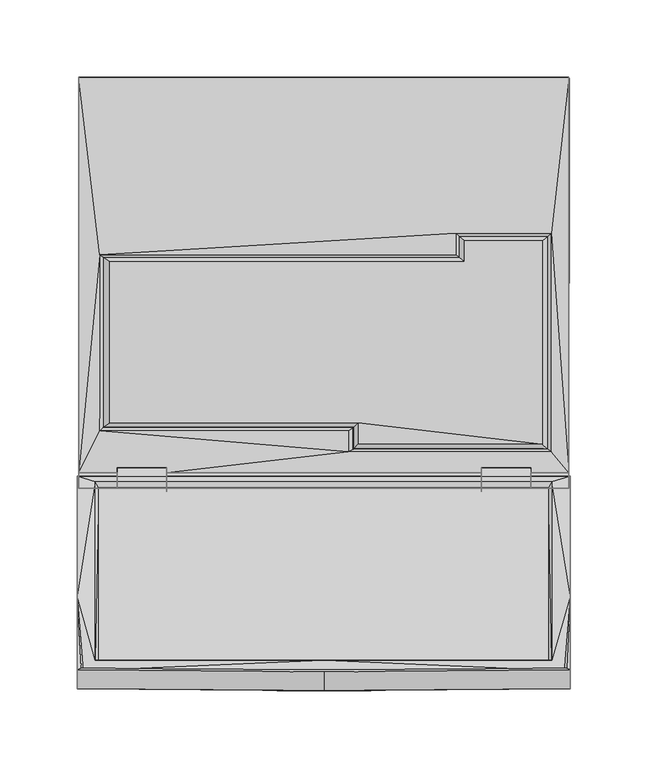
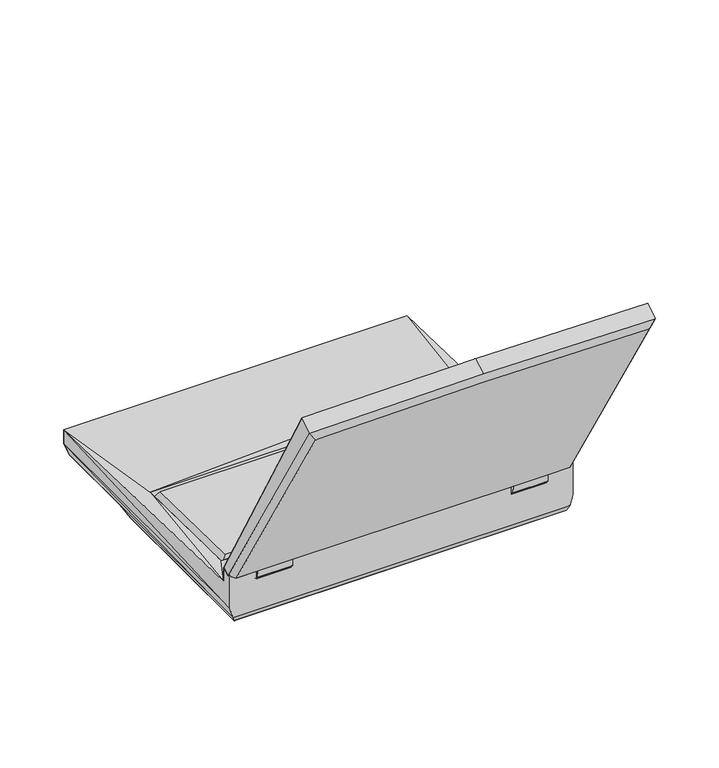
"""IFC4 building model written with IfcOpenShell, lengths in millimetres: proxy geometry, RPC Notebook Computer : RPC Notebook Computer."""

from ifc_helpers import new_model, si_unit, origin, place, context, project, spatial, triangles, source, transform, mapped, element, save


def entourage_8dadc95b(model_context):
    return source(origin(), model_context, "Body", "Tessellation", [
        triangles([(-158.4296465, 167.58125, 28.2218852), (-101.7496669, -97.7313892, 35.1332116), (-101.7496669, -97.7313892, 48.4910445), (-101.7496669, -92.7961799, 50.2665039), (-101.7496669, -87.9168539, 48.183705), (-101.7496669, -87.9168539, 35.1332116), (-158.4296465, -87.9168539, 35.1332116), (-133.8221823, -97.7288549, 35.1332116), (-133.8221823, -97.7313892, 48.4910445), (-133.8221823, -92.7961799, 50.2665039), (-133.8221823, -87.9168539, 48.183705), (-133.8221823, -87.9168539, 35.1332116), (158.4321899, 167.58125, 28.2218852), (101.7496669, -97.7313892, 35.1332116), (101.7496669, -97.7313892, 48.4910445), (101.7496669, -92.7961799, 50.2665039), (101.7496669, -87.9168539, 48.183705), (101.7496669, -87.9168539, 35.1332116), (85.2320795, 66.8399699, 31.8083578), (-144.8813183, 53.1646373, 31.9658382), (85.2320795, 53.1646373, 31.9658382), (-144.8813183, -60.6703247, 34.190875), (146.9209376, -74.3380361, 34.2924744), (146.9209376, 66.8399699, 31.8083578), (158.4321899, -87.9168539, 35.1332116), (133.8247257, -97.7313892, 35.1332116), (133.8247257, -97.7313892, 48.4910445), (133.8247257, -92.7961799, 50.2665039), (133.8247257, -87.9168539, 48.183705), (133.8247257, -87.9168539, 35.1332116), (-142.7070869, -58.4935454, 29.3902823), (15.8851291, -74.3380361, 34.2924744), (19.0347234, -72.5752803, 29.491884), (15.8851291, -60.6703247, 34.190875), (19.0347234, -58.4935454, 29.3902823), (-155.2851437, 164.0506697, 4.7853507), (-155.2851437, 83.3296157, 4.8691705), (-153.4715916, 69.0040457, 0.0), (-153.4715916, -95.8771965, 0.0), (155.2876871, 164.0506697, 4.7853507), (155.2851437, 83.3296157, 4.8691705), (153.4715916, 69.0040457, 0.0), (153.4715916, -95.8771965, 0.0), (-155.2851437, -97.7313892, 4.8691705), (-158.4296465, -97.7313892, 14.9046918), (-158.4296465, -97.7313892, 48.4910445), (155.2851437, -97.7313892, 4.8691705), (158.4321899, -97.7313892, 14.9046918), (158.4321899, -97.7313892, 48.4910445), (-158.4296465, -92.7961799, 50.2665039), (-158.4296465, -87.9168539, 48.183705), (158.4321899, -92.7961799, 50.2665039), (158.4321899, -87.9168539, 48.183705), (-158.6201509, 166.809095, 14.9046918), (158.6201509, 166.809095, 14.9046918), (87.4063109, 64.9654568, 27.0992089), (-142.7070869, 51.2901197, 27.2541481), (87.4063109, 51.2901197, 27.2541481), (144.7466972, -72.5752803, 29.491884), (144.7466972, 64.9654568, 27.0992089), (141.2262725, 62.1181197, 32.971677), (90.9267446, 62.1181197, 32.971677), (-138.3738576, 48.4427871, 33.1266163), (90.9267446, 48.4427871, 33.1266163), (-138.3738576, -55.455713, 35.1128913), (141.2262725, -69.5374479, 35.2170319), (21.8820582, -55.455713, 35.1128913), (21.8820582, -69.5374479, 35.2170319), (0.0, -97.4128585, 55.9745857), (0.0, -210.9896832, 252.9150856), (-145.6915795, -97.4079442, 55.9759029), (-145.6915795, -210.9896832, 252.9150856), (145.1099199, -97.4079442, 55.9759029), (145.1099199, -210.9896832, 252.9150856), (0.0, -93.6356817, 56.4318344), (0.0, -208.9149552, 255.5746798), (-147.9064516, -93.6314306, 56.4355996), (-147.9064516, -208.9149552, 255.5746798), (147.324792, -93.6314306, 56.4355996), (147.324792, -208.9149552, 255.5746798), (0.0, -216.3935685, 274.7706011), (0.0, -228.5968389, 267.3880576), (-159.4431202, -215.2201299, 272.1872014), (-159.4431202, -227.4258529, 264.8040038), (159.4431202, -215.2201299, 272.1872014), (159.4431202, -227.4258529, 264.8040038), (0.0, -228.4382185, 258.9843009), (0.0, -100.2161304, 44.3947738), (-101.7496669, -95.9080176, 34.4601195), (-154.0176883, -227.2647799, 256.4009012), (-101.7496669, -100.2161304, 44.3947738), (-133.8221823, -95.8970626, 34.4683153), (-133.7332797, -100.2161304, 44.3947738), (-154.0176883, -100.2161304, 44.3947738), (-133.8221823, -99.9570619, 37.7850142), (-101.7496669, -99.9570619, 37.7850142), (-159.4431202, -96.6325737, 46.5461914), (101.7496669, -95.9080176, 34.4601195), (154.0176883, -227.2647799, 256.4009012), (101.7496669, -100.2161304, 44.3947738), (133.8221823, -95.8970626, 34.4683153), (133.7332797, -100.2161304, 44.3947738), (154.0176883, -100.2161304, 44.3947738), (133.8221823, -99.9570619, 37.7850142), (101.7496669, -99.9570619, 37.7850142), (159.4431202, -96.6325737, 46.5461914), (0.0, -90.14497, 50.4408074), (-101.7496669, -84.4468077, 41.3440562), (-101.7496669, -90.1498753, 50.4394948), (-133.8221823, -84.4468077, 41.3440562), (101.7496669, -84.4468077, 41.3440562), (101.7496669, -90.1498753, 50.4394948), (133.8221823, -84.4468077, 41.3440562), (-133.7332797, -90.1498753, 50.4394948), (-159.4431202, -90.1431715, 50.4439186), (133.7332797, -90.1498753, 50.4394948), (159.4431202, -90.1431715, 50.4439186), (0.0, -215.2954524, 272.7823504), (-156.9437634, -214.1244664, 270.1982966), (-159.4431202, -167.4021366, 187.4104175), (0.0, -216.9436621, 269.6006769), (-155.5010462, -215.7733483, 267.0190757), (156.9437634, -214.1244664, 270.1982966), (159.4431202, -167.4021366, 187.4104175), (155.5010462, -215.7733483, 267.0190757)], [[1, 19, 13], [6, 2, 3], [6, 3, 4], [6, 4, 5], [6, 12, 8], [6, 8, 2], [12, 11, 10], [12, 10, 9], [12, 9, 8], [20, 21, 19], [1, 20, 19], [6, 22, 12], [20, 1, 7], [12, 22, 7], [6, 23, 32], [6, 18, 23], [13, 19, 24], [15, 14, 18], [16, 15, 18], [17, 16, 18], [26, 30, 18], [14, 26, 18], [28, 29, 30], [27, 28, 30], [26, 27, 30], [25, 24, 23], [30, 23, 18], [25, 13, 24], [25, 23, 30], [6, 32, 22], [34, 22, 32], [33, 31, 35], [41, 37, 36], [41, 36, 40], [41, 42, 38], [41, 38, 37], [43, 39, 38], [43, 38, 42], [8, 44, 2], [44, 8, 45], [46, 45, 9], [8, 9, 45], [47, 44, 39], [47, 39, 43], [14, 2, 47], [47, 2, 44], [15, 3, 14], [14, 3, 2], [14, 47, 26], [48, 26, 47], [27, 48, 49], [48, 27, 26], [51, 50, 11], [10, 11, 50], [17, 5, 16], [16, 5, 4], [29, 52, 53], [52, 29, 28], [50, 46, 10], [9, 10, 46], [16, 4, 15], [15, 4, 3], [28, 49, 52], [49, 28, 27], [1, 13, 55], [1, 55, 54], [54, 55, 40], [54, 40, 36], [40, 55, 41], [52, 48, 25], [48, 52, 49], [25, 53, 52], [43, 41, 47], [48, 13, 25], [47, 55, 48], [41, 43, 42], [13, 48, 55], [55, 47, 41], [7, 51, 12], [11, 12, 51], [18, 6, 17], [17, 6, 5], [30, 53, 25], [53, 30, 29], [37, 54, 36], [7, 45, 50], [46, 50, 45], [50, 51, 7], [44, 37, 39], [7, 1, 45], [45, 54, 44], [38, 39, 37], [54, 45, 1], [37, 44, 54], [31, 57, 22], [32, 23, 33], [59, 33, 23], [21, 20, 58], [57, 58, 20], [19, 21, 56], [58, 56, 21], [24, 19, 60], [56, 60, 19], [23, 24, 59], [60, 59, 24], [22, 34, 31], [35, 31, 34], [32, 33, 34], [35, 34, 33], [35, 59, 33], [22, 20, 7], [20, 22, 57], [65, 67, 63], [63, 67, 64], [62, 64, 61], [64, 66, 61], [57, 31, 63], [65, 63, 31], [31, 35, 65], [67, 65, 35], [58, 57, 64], [63, 64, 57], [56, 58, 62], [64, 62, 58], [60, 56, 61], [62, 61, 56], [59, 60, 66], [61, 66, 60], [67, 66, 64], [66, 68, 59], [33, 59, 68], [67, 35, 68], [33, 68, 35], [68, 66, 67], [70, 69, 72], [72, 69, 71], [74, 69, 70], [73, 69, 74], [78, 76, 72], [70, 72, 76], [75, 77, 69], [71, 69, 77], [77, 78, 71], [72, 71, 78], [74, 76, 80], [76, 74, 70], [69, 79, 75], [79, 69, 73], [73, 80, 79], [80, 73, 74], [82, 81, 84], [84, 81, 83], [86, 81, 82], [85, 81, 86], [87, 82, 90], [90, 82, 84], [88, 87, 91], [91, 87, 90], [91, 90, 93], [89, 96, 92], [92, 96, 95], [93, 90, 94], [90, 97, 94], [95, 91, 93], [96, 91, 95], [84, 97, 90], [99, 82, 87], [86, 82, 99], [100, 87, 88], [99, 87, 100], [102, 99, 100], [101, 105, 98], [104, 105, 101], [99, 102, 103], [103, 106, 99], [102, 100, 104], [104, 100, 105], [99, 106, 86], [108, 89, 110], [110, 89, 92], [91, 96, 89], [91, 89, 108], [91, 108, 109], [88, 91, 109], [88, 109, 107], [113, 98, 111], [101, 98, 113], [98, 105, 100], [111, 98, 100], [112, 111, 100], [112, 100, 88], [107, 112, 88], [114, 93, 115], [115, 93, 97], [92, 95, 93], [92, 93, 114], [92, 114, 110], [97, 93, 94], [117, 102, 116], [106, 102, 117], [102, 104, 101], [116, 102, 101], [113, 116, 101], [103, 102, 106], [109, 108, 114], [114, 108, 110], [83, 81, 119], [107, 109, 75], [77, 75, 109], [109, 114, 77], [115, 120, 77], [77, 114, 115], [118, 119, 81], [78, 77, 120], [120, 119, 122], [121, 76, 122], [122, 76, 78], [122, 119, 121], [121, 119, 118], [78, 120, 122], [120, 83, 119], [116, 111, 112], [113, 111, 116], [123, 81, 85], [75, 112, 107], [112, 75, 79], [79, 116, 112], [79, 124, 117], [79, 117, 116], [81, 123, 118], [124, 79, 80], [125, 123, 124], [125, 76, 121], [80, 76, 125], [121, 123, 125], [118, 123, 121], [125, 124, 80], [123, 85, 124], [86, 117, 124], [106, 117, 86], [86, 124, 85], [120, 115, 84], [84, 115, 97], [83, 120, 84]], closed=False),
    ])


if __name__ == "__main__":
    model = new_model("IFC4")
    model_context = context("Model", 3, world=origin())
    ifc_project = project(units=[si_unit("LENGTHUNIT", "METRE", prefix="MILLI")], contexts=[model_context])
    site = spatial("IfcSite", under=ifc_project)
    building = spatial("IfcBuilding", under=site)
    placement = place(None, origin())
    entourage_shape = entourage_8dadc95b(model_context)
    element("IfcBuildingElementProxy", 1, Name="RPC Notebook Computer : RPC Notebook Computer", ObjectType="RPC Notebook Computer : RPC Notebook Computer", at=placement, inside=building, context=model_context, shape_type="MappedRepresentation", body=[
        mapped(entourage_shape, transform((0.0, 0.0, 0.0), x_axis=(1.0, 0.0, 0.0), y_axis=(0.0, 1.0, 0.0), z_axis=(0.0, 0.0, 1.0))),
    ])
    save(model, "model.ifc")
